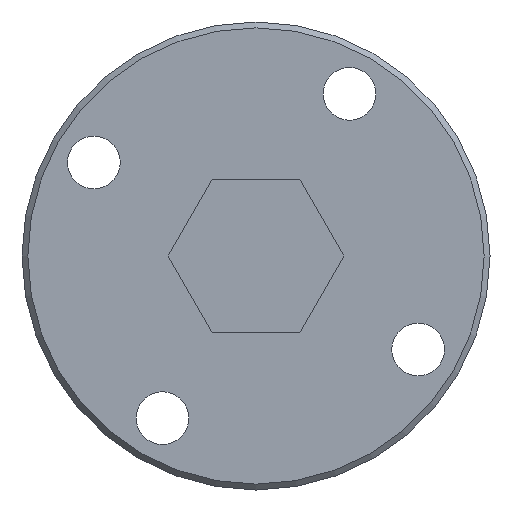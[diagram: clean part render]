
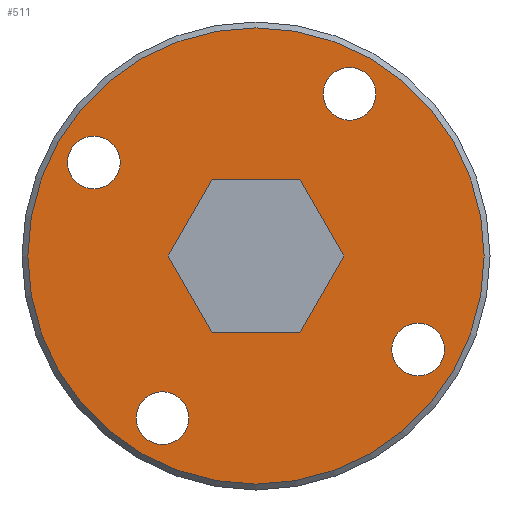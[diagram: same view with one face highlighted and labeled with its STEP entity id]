
A CAD part, left-side view. The second image highlights one B-rep face of the part: STEP entity #511.
In plain terms, the highlighted planar face has unit normal (-1, 0, 0).
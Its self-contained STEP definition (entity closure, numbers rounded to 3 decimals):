
#377=CARTESIAN_POINT('',(135.0,19.5,0.));
#378=VERTEX_POINT('',#377);
#379=CARTESIAN_POINT('',(135.0,0.0,0.0));
#380=DIRECTION('',(1.0,0.0,0.0));
#381=DIRECTION('',(0.0,-1.0,0.0));
#382=AXIS2_PLACEMENT_3D('',#379,#380,#381);
#383=CIRCLE('',#382,19.5);
#384=EDGE_CURVE('',#378,#378,#383,.T.);
#409=CARTESIAN_POINT('',(135.0,0.0,6.));
#410=DIRECTION('',(-1.0,0.0,0.0));
#411=DIRECTION('',(0.0,0.0,1.0));
#412=AXIS2_PLACEMENT_3D('',#409,#410,#411);
#413=PLANE('',#412);
#414=ORIENTED_EDGE('',*,*,#384,.F.);
#415=EDGE_LOOP('',(#414));
#416=FACE_OUTER_BOUND('',#415,.T.);
#417=CARTESIAN_POINT('',(135.0,-3.753,-6.5));
#418=VERTEX_POINT('',#417);
#419=CARTESIAN_POINT('',(135.0,3.753,-6.5));
#420=VERTEX_POINT('',#419);
#421=CARTESIAN_POINT('',(135.0,-3.753,-6.5));
#422=DIRECTION('',(0.0,1.0,0.0));
#423=VECTOR('',#422,7.506);
#424=LINE('',#421,#423);
#425=EDGE_CURVE('',#418,#420,#424,.T.);
#426=ORIENTED_EDGE('',*,*,#425,.T.);
#427=CARTESIAN_POINT('',(135.0,7.506,0.));
#428=VERTEX_POINT('',#427);
#429=CARTESIAN_POINT('',(135.0,3.753,-6.5));
#430=DIRECTION('',(0.0,0.5,0.866));
#431=VECTOR('',#430,7.506);
#432=LINE('',#429,#431);
#433=EDGE_CURVE('',#420,#428,#432,.T.);
#434=ORIENTED_EDGE('',*,*,#433,.T.);
#435=CARTESIAN_POINT('',(135.0,3.753,6.5));
#436=VERTEX_POINT('',#435);
#437=CARTESIAN_POINT('',(135.0,7.506,0.));
#438=DIRECTION('',(0.0,-0.5,0.866));
#439=VECTOR('',#438,7.506);
#440=LINE('',#437,#439);
#441=EDGE_CURVE('',#428,#436,#440,.T.);
#442=ORIENTED_EDGE('',*,*,#441,.T.);
#443=CARTESIAN_POINT('',(135.0,-3.753,6.5));
#444=VERTEX_POINT('',#443);
#445=CARTESIAN_POINT('',(135.0,3.753,6.5));
#446=DIRECTION('',(0.0,-1.0,0.0));
#447=VECTOR('',#446,7.506);
#448=LINE('',#445,#447);
#449=EDGE_CURVE('',#436,#444,#448,.T.);
#450=ORIENTED_EDGE('',*,*,#449,.T.);
#451=CARTESIAN_POINT('',(135.0,-7.506,0.0));
#452=VERTEX_POINT('',#451);
#453=CARTESIAN_POINT('',(135.0,-3.753,6.5));
#454=DIRECTION('',(0.0,-0.5,-0.866));
#455=VECTOR('',#454,7.506);
#456=LINE('',#453,#455);
#457=EDGE_CURVE('',#444,#452,#456,.T.);
#458=ORIENTED_EDGE('',*,*,#457,.T.);
#459=CARTESIAN_POINT('',(135.0,-7.506,0.0));
#460=DIRECTION('',(0.0,0.5,-0.866));
#461=VECTOR('',#460,7.506);
#462=LINE('',#459,#461);
#463=EDGE_CURVE('',#452,#418,#462,.T.);
#464=ORIENTED_EDGE('',*,*,#463,.T.);
#465=EDGE_LOOP('',(#426,#434,#442,#450,#458,#464));
#466=FACE_BOUND('',#465,.T.);
#467=CARTESIAN_POINT('',(135.0,-5.75,13.856));
#468=VERTEX_POINT('',#467);
#469=CARTESIAN_POINT('',(135.0,-8.,13.856));
#470=DIRECTION('',(1.0,0.0,0.0));
#471=DIRECTION('',(0.0,1.0,0.0));
#472=AXIS2_PLACEMENT_3D('',#469,#470,#471);
#473=CIRCLE('',#472,2.25);
#474=EDGE_CURVE('',#468,#468,#473,.T.);
#475=ORIENTED_EDGE('',*,*,#474,.T.);
#476=EDGE_LOOP('',(#475));
#477=FACE_BOUND('',#476,.T.);
#478=CARTESIAN_POINT('',(135.0,-13.856,-5.75));
#479=VERTEX_POINT('',#478);
#480=CARTESIAN_POINT('',(135.0,-13.856,-8.));
#481=DIRECTION('',(1.0,0.0,0.0));
#482=DIRECTION('',(0.0,0.0,1.0));
#483=AXIS2_PLACEMENT_3D('',#480,#481,#482);
#484=CIRCLE('',#483,2.25);
#485=EDGE_CURVE('',#479,#479,#484,.T.);
#486=ORIENTED_EDGE('',*,*,#485,.T.);
#487=EDGE_LOOP('',(#486));
#488=FACE_BOUND('',#487,.T.);
#489=CARTESIAN_POINT('',(135.0,5.75,-13.856));
#490=VERTEX_POINT('',#489);
#491=CARTESIAN_POINT('',(135.0,8.,-13.856));
#492=DIRECTION('',(1.0,0.0,0.0));
#493=DIRECTION('',(0.0,-1.0,0.0));
#494=AXIS2_PLACEMENT_3D('',#491,#492,#493);
#495=CIRCLE('',#494,2.25);
#496=EDGE_CURVE('',#490,#490,#495,.T.);
#497=ORIENTED_EDGE('',*,*,#496,.T.);
#498=EDGE_LOOP('',(#497));
#499=FACE_BOUND('',#498,.T.);
#500=CARTESIAN_POINT('',(135.0,13.856,5.75));
#501=VERTEX_POINT('',#500);
#502=CARTESIAN_POINT('',(135.0,13.856,8.));
#503=DIRECTION('',(1.0,0.0,0.0));
#504=DIRECTION('',(0.0,0.0,-1.0));
#505=AXIS2_PLACEMENT_3D('',#502,#503,#504);
#506=CIRCLE('',#505,2.25);
#507=EDGE_CURVE('',#501,#501,#506,.T.);
#508=ORIENTED_EDGE('',*,*,#507,.T.);
#509=EDGE_LOOP('',(#508));
#510=FACE_BOUND('',#509,.T.);
#511=ADVANCED_FACE('',(#416,#466,#477,#488,#499,#510),#413,.T.);
